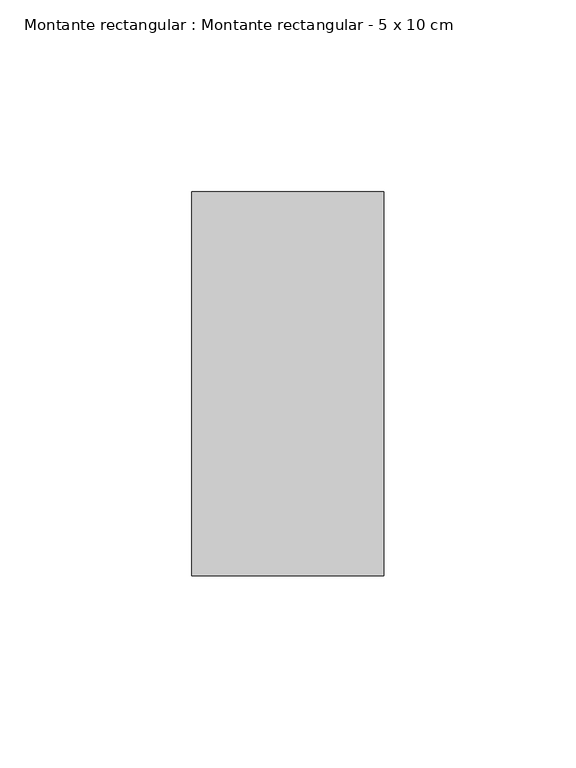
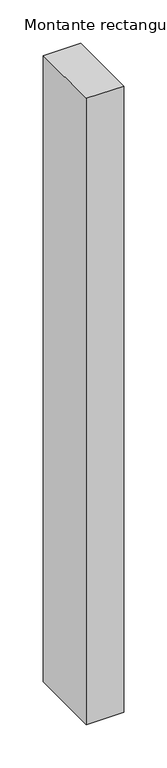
"""IFC4 building model written with IfcOpenShell, lengths in millimetres: member geometry, Montante rectangular : Montante rectangular - 5 x 10 cm."""

from ifc_helpers import new_model, si_unit, frame, origin, place, context, project, spatial, polyline, outline, extrude, source, transform, mapped, element, save


def montante_rectangular_montante_rectangular_5_x_10_cm_bcaac2a8(model_context):
    return source(origin(), model_context, "Body", "SweptSolid", [
        extrude(outline(polyline([(-50.0, 50.0), (0.0, 50.0), (0.0, -50.0), (-50.0, -50.0), (-50.0, 50.0)])), frame((0.0, 0.0, -885.0), z_axis=(0.0, 0.0, 1.0), x_axis=(1.0, 0.0, 0.0)), (0.0, 0.0, 1.0), 885.0),
    ])


if __name__ == "__main__":
    model = new_model("IFC4")
    model_context = context("Model", 3, world=origin())
    ifc_project = project(units=[si_unit("LENGTHUNIT", "METRE", prefix="MILLI")], contexts=[model_context])
    site = spatial("IfcSite", under=ifc_project)
    building = spatial("IfcBuilding", under=site)
    placement = place(None, origin())
    montante_rectangular_montante_rectangular_5_x_10_cm_shape = montante_rectangular_montante_rectangular_5_x_10_cm_bcaac2a8(model_context)
    element("IfcMember", 1, ObjectType="Montante rectangular : Montante rectangular - 5 x 10 cm", at=placement, inside=building, context=model_context, shape_type="MappedRepresentation", body=[
        mapped(montante_rectangular_montante_rectangular_5_x_10_cm_shape, transform((0.0, 0.0, 0.0), x_axis=(1.0, 0.0, 0.0), y_axis=(0.0, 1.0, 0.0), z_axis=(0.0, 0.0, 1.0))),
    ])
    save(model, "model.ifc")
